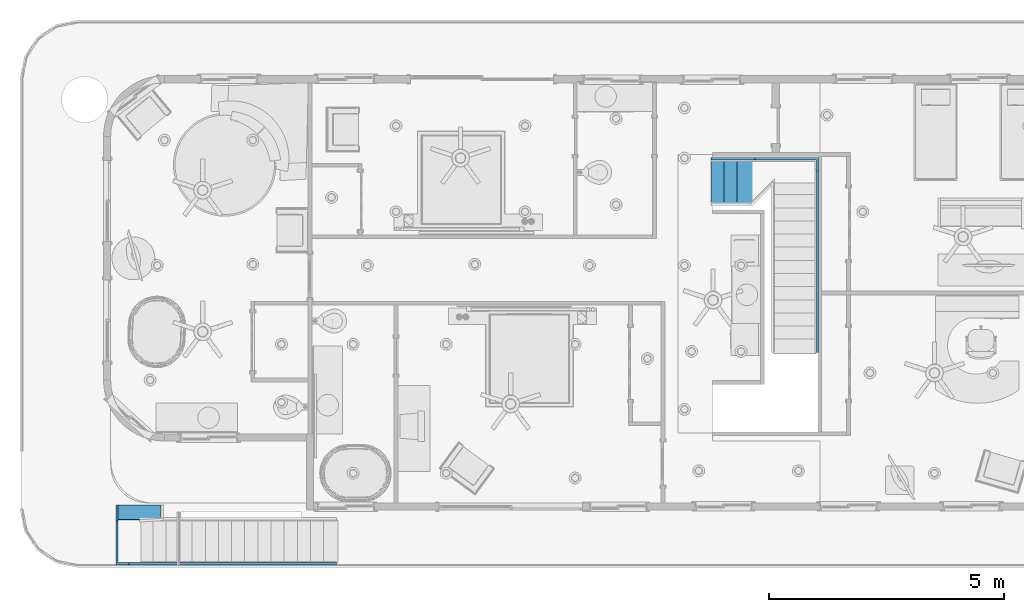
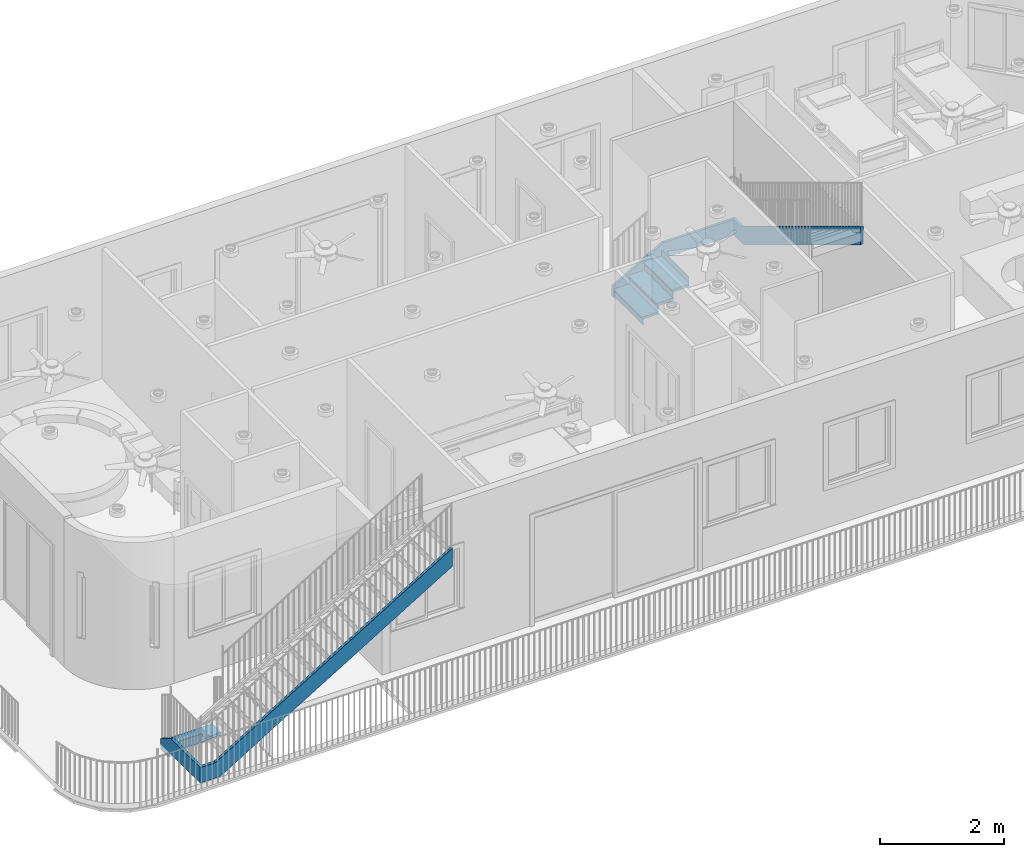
# One storey, part 9 of 28: 2 members, 2 stair flights, 2 elements without a shape of their own.
"""IFC2X3 building model written with IfcOpenShell, lengths in feet."""

from ifc_helpers import new_model, entity, si_unit, converted_unit, derived_unit, direction, frame, origin, place, context, subcontext, project, spatial, faceted_brep, material, element, aggregate, save


model = new_model("IFC2X3")

# Units and contexts
model_context = context("Model", 3, precision=0.0001, world=origin(), true_north=direction((6.12303176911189e-17, 1.0)))
body_context = subcontext(model_context, "Body", "Model", "MODEL_VIEW")
ifc_project = project(units=[converted_unit("LENGTHUNIT", "FOOT", entity("IfcRatioMeasure", 0.3048), si_unit("LENGTHUNIT", "METRE"), dimensions=[1, 0, 0, 0, 0, 0, 0]), converted_unit("AREAUNIT", "SQUARE FOOT", entity("IfcRatioMeasure", 0.09290304), si_unit("AREAUNIT", "SQUARE_METRE"), dimensions=[2, 0, 0, 0, 0, 0, 0]), converted_unit("VOLUMEUNIT", "CUBIC FOOT", entity("IfcRatioMeasure", 0.028316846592), si_unit("VOLUMEUNIT", "CUBIC_METRE"), dimensions=[3, 0, 0, 0, 0, 0, 0]), converted_unit("PLANEANGLEUNIT", "DEGREE", entity("IfcRatioMeasure", 0.0174532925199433), si_unit("PLANEANGLEUNIT", "RADIAN"), dimensions=[0, 0, 0, 0, 0, 0, 0]), si_unit("MASSUNIT", "GRAM", prefix="KILO"), derived_unit("MASSDENSITYUNIT", [(si_unit("MASSUNIT", "GRAM", prefix="KILO"), 1), (si_unit("LENGTHUNIT", "METRE"), -3)]), si_unit("TIMEUNIT", "SECOND"), si_unit("FREQUENCYUNIT", "HERTZ"), si_unit("THERMODYNAMICTEMPERATUREUNIT", "DEGREE_CELSIUS"), derived_unit("THERMALTRANSMITTANCEUNIT", [(si_unit("MASSUNIT", "GRAM", prefix="KILO"), 1), (si_unit("THERMODYNAMICTEMPERATUREUNIT", "KELVIN"), -1), (si_unit("TIMEUNIT", "SECOND"), -3)]), derived_unit("VOLUMETRICFLOWRATEUNIT", [(si_unit("LENGTHUNIT", "METRE"), 3), (si_unit("TIMEUNIT", "SECOND"), -1)]), si_unit("ELECTRICCURRENTUNIT", "AMPERE"), si_unit("ELECTRICVOLTAGEUNIT", "VOLT"), si_unit("POWERUNIT", "WATT"), si_unit("FORCEUNIT", "NEWTON"), si_unit("ILLUMINANCEUNIT", "LUX"), si_unit("LUMINOUSFLUXUNIT", "LUMEN"), si_unit("LUMINOUSINTENSITYUNIT", "CANDELA"), derived_unit("USERDEFINED", [(si_unit("MASSUNIT", "GRAM", prefix="KILO"), -1), (si_unit("LENGTHUNIT", "METRE"), -2), (si_unit("TIMEUNIT", "SECOND"), 3), (si_unit("LUMINOUSFLUXUNIT", "LUMEN"), 1)]), derived_unit("LINEARVELOCITYUNIT", [(si_unit("LENGTHUNIT", "METRE"), 1), (si_unit("TIMEUNIT", "SECOND"), -1)]), si_unit("PRESSUREUNIT", "PASCAL"), derived_unit("USERDEFINED", [(si_unit("LENGTHUNIT", "METRE"), -2), (si_unit("MASSUNIT", "GRAM", prefix="KILO"), 1), (si_unit("TIMEUNIT", "SECOND"), -2)])], contexts=[model_context])

# Site, building, storey
site_placement = place(None, origin())
site = spatial("IfcSite", under=ifc_project, at=site_placement, Name="表面", CompositionType="ELEMENT")
building_placement = place(site_placement, origin())
building = spatial("IfcBuilding", under=site, at=building_placement, CompositionType="ELEMENT")
storey_placement = place(building_placement, frame((0.0, 0.0, 10.0)))
storey = spatial("IfcBuildingStorey", under=building, at=storey_placement, Name="Level 2", CompositionType="ELEMENT", Elevation=9.99999999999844)

# Stair, member
stair_1_placement = place(storey_placement, origin())
stair_1 = element("IfcStair", 1, at=stair_1_placement, inside=storey, Name="楼梯:7\" max riser 11\" tread", ObjectType="楼梯:7\" max riser 11\" tread", ShapeType="NOTDEFINED")
ifc_material = material(Name="Metal - Aluminum")
member_1_placement = place(stair_1_placement, origin())
member_1 = element("IfcMember", 2, at=member_1_placement, material=ifc_material, Name="楼梯:7\" max riser 11\" tread:1", ObjectType="楼梯:7\" max riser 11\" tread", context=body_context, shape_type="Brep", body=[
    faceted_brep([(8.11092024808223, 11.0381172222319, 0.716073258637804), (8.11092024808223, 11.2047838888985, 0.716073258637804), (8.11092024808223, 11.2047838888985, 0.0), (8.11092024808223, 11.0381172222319, 0.0), (11.1732050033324, 11.0381172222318, 2.47222222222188), (11.1732050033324, 11.2047838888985, 2.47222222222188), (11.4395953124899, 11.2047838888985, 1.47222222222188), (8.87240781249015, 11.2047838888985, 0.0), (11.4395953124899, 11.0381172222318, 1.47222222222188), (8.87240781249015, 11.0381172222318, 0.0), (15.4650869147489, 11.0381172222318, 2.47222222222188), (15.6317535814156, 11.2047838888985, 2.47222222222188), (15.6317535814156, 11.2047838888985, 1.47222222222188), (15.4650869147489, 11.0381172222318, 1.47222222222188), (15.4650869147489, 10.2738749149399, 2.47222222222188), (15.6317535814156, 10.2738749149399, 2.47222222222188), (15.6317535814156, 9.99449677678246, 1.47222222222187), (15.4650869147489, 9.99449677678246, 1.47222222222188), (15.4650869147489, -2.37854944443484, 10.1403581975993), (15.4650869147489, -2.37854944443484, 8.97103811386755), (15.6317535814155, -2.37854944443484, 8.97103811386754), (15.6317535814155, -2.37854944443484, 10.1403581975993)], [[[0, 1, 2, 3]], [[1, 0, 4, 5]], [[2, 1, 5, 6, 7]], [[7, 6, 8, 9]], [[0, 3, 9, 8, 4]], [[5, 4, 10, 11]], [[6, 5, 11, 12]], [[8, 6, 12, 13]], [[4, 8, 13, 10]], [[11, 10, 14, 15]], [[12, 11, 15, 16]], [[13, 12, 16, 17]], [[10, 13, 17, 14]], [[18, 19, 20, 21]], [[15, 14, 18, 21]], [[16, 15, 21, 20]], [[17, 16, 20, 19]], [[14, 17, 19, 18]], [[3, 2, 7, 9]]]),
])

stair_2_placement = place(storey_placement, origin())
stair_2 = element("IfcStair", 3, at=stair_2_placement, inside=storey, Name="楼梯:7\" max riser 11\" tread", ObjectType="楼梯:7\" max riser 11\" tread", ShapeType="NOTDEFINED")
member_2_placement = place(stair_2_placement, origin())
member_2 = element("IfcMember", 4, at=member_2_placement, material=ifc_material, Name="楼梯:7\" max riser 11\" tread:2", ObjectType="楼梯:7\" max riser 11\" tread", context=body_context, shape_type="Brep", body=[
    faceted_brep([(-33.4307464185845, -13.0467729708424, 0.695913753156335), (-33.2640797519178, -13.0467729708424, 0.695913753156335), (-33.2640797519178, -13.0467729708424, 0.0), (-33.4307464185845, -13.0467729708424, 0.0), (-33.4307464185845, -14.1443486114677, 1.36111111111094), (-33.2640797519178, -14.1443486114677, 1.36111111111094), (-33.2640797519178, -14.4237267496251, 0.361111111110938), (-33.2640797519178, -13.827893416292, 0.0), (-33.4307464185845, -14.4237267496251, 0.361111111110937), (-33.4307464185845, -13.827893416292, 0.0), (-33.4307464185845, -17.2342729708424, 1.36111111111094), (-33.2640797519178, -17.0676063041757, 1.36111111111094), (-33.2640797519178, -17.0676063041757, 0.36111111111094), (-33.4307464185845, -17.2342729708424, 0.361111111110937), (-32.4998374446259, -17.2342729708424, 1.36111111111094), (-32.4998374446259, -17.0676063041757, 1.36111111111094), (-32.2204593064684, -17.0676063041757, 0.36111111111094), (-32.2204593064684, -17.2342729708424, 0.361111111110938), (-18.0140797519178, -17.2342729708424, 10.1403581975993), (-18.0140797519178, -17.2342729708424, 8.97103811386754), (-18.0140797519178, -17.0676063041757, 8.97103811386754), (-18.0140797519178, -17.0676063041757, 10.1403581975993)], [[[0, 1, 2, 3]], [[1, 0, 4, 5]], [[2, 1, 5, 6, 7]], [[7, 6, 8, 9]], [[0, 3, 9, 8, 4]], [[5, 4, 10, 11]], [[6, 5, 11, 12]], [[8, 6, 12, 13]], [[4, 8, 13, 10]], [[11, 10, 14, 15]], [[12, 11, 15, 16]], [[13, 12, 16, 17]], [[10, 13, 17, 14]], [[18, 19, 20, 21]], [[15, 14, 18, 21]], [[16, 15, 21, 20]], [[17, 16, 20, 19]], [[14, 17, 19, 18]], [[3, 2, 7, 9]]]),
])

# Stair flight
stair_flight_1_placement = place(stair_1_placement, origin())
stair_flight_1 = element("IfcStairFlight", 5, at=stair_flight_1_placement, material=ifc_material, Name="楼梯:7\" max riser 11\" tread:1", ObjectType="楼梯:7\" max riser 11\" tread", NumberOfRiser=4, NumberOfTreads=3, RiserHeight=0.555555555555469, TreadLength=0.951388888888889, context=body_context, shape_type="Brep", body=[
    faceted_brep([(8.11092024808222, 8.03811722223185, 0.493055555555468), (8.11092024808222, 8.03811722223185, 0.555555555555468), (8.11092024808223, 11.0381172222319, 0.555555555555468), (8.11092024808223, 11.0381172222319, 0.493055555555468), (8.19425358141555, 8.03811722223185, 0.409722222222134), (8.19425358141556, 11.0381172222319, 0.409722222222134), (9.11092024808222, 8.03811722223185, 0.555555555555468), (9.11092024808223, 11.0381172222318, 0.555555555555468), (8.19425358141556, 11.0381172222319, 0.388888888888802), (9.11092024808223, 11.0381172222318, 0.388888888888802), (9.11092024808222, 8.03811722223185, 0.388888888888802), (8.19425358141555, 8.03811722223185, 0.388888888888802)], [[[0, 1, 2, 3]], [[4, 0, 3, 5]], [[2, 1, 6, 7]], [[8, 9, 10, 11]], [[2, 7, 9, 8, 5, 3]], [[8, 11, 4, 5]], [[6, 1, 0, 4, 11, 10]], [[7, 6, 10, 9]]]),
    faceted_brep([(8.19425358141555, 8.03811722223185, 0.388888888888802), (8.19425358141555, 8.03811722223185, 0.0), (8.21508691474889, 8.03811722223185, 0.0), (8.21508691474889, 8.03811722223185, 0.388888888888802), (8.19425358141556, 11.0381172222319, 0.388888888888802), (8.2150869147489, 11.0381172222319, 0.388888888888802), (8.2150869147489, 11.0381172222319, 0.0), (8.19425358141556, 11.0381172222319, 0.0)], [[[0, 1, 2, 3]], [[4, 5, 6, 7]], [[1, 0, 4, 7]], [[2, 1, 7, 6]], [[3, 2, 6, 5]], [[0, 3, 5, 4]]]),
    faceted_brep([(9.11092024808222, 8.03811722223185, 0.944444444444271), (9.11092024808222, 8.03811722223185, 0.388888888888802), (9.13175358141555, 8.03811722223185, 0.388888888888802), (9.13175358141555, 8.03811722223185, 0.944444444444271), (9.11092024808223, 11.0381172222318, 0.944444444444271), (9.13175358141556, 11.0381172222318, 0.944444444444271), (9.13175358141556, 11.0381172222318, 0.388888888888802), (9.11092024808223, 11.0381172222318, 0.388888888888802)], [[[0, 1, 2, 3]], [[4, 5, 6, 7]], [[1, 0, 4, 7]], [[2, 1, 7, 6]], [[3, 2, 6, 5]], [[0, 3, 5, 4]]]),
    faceted_brep([(9.0275869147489, 11.0381172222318, 1.11111111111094), (9.02758691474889, 8.03811722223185, 1.11111111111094), (10.0275869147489, 8.03811722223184, 1.11111111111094), (10.0275869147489, 11.0381172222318, 1.11111111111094), (9.11092024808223, 11.0381172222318, 0.944444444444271), (10.0275869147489, 11.0381172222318, 0.944444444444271), (10.0275869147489, 8.03811722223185, 0.944444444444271), (9.11092024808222, 8.03811722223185, 0.944444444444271), (9.11092024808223, 11.0381172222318, 0.965277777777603), (9.0275869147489, 11.0381172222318, 1.04861111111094), (9.11092024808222, 8.03811722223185, 0.965277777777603), (9.02758691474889, 8.03811722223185, 1.04861111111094)], [[[0, 1, 2, 3]], [[4, 5, 6, 7]], [[0, 3, 5, 4, 8, 9]], [[4, 7, 10, 8]], [[2, 1, 11, 10, 7, 6]], [[3, 2, 6, 5]], [[11, 1, 0, 9]], [[10, 11, 9, 8]]]),
    faceted_brep([(10.0275869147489, 8.03811722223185, 1.49999999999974), (10.0275869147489, 8.03811722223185, 0.944444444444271), (10.0484202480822, 8.03811722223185, 0.944444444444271), (10.0484202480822, 8.03811722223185, 1.49999999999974), (10.0275869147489, 11.0381172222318, 1.49999999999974), (10.0484202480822, 11.0381172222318, 1.49999999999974), (10.0484202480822, 11.0381172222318, 0.944444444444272), (10.0275869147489, 11.0381172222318, 0.944444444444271)], [[[0, 1, 2, 3]], [[4, 5, 6, 7]], [[1, 0, 4, 7]], [[2, 1, 7, 6]], [[3, 2, 6, 5]], [[0, 3, 5, 4]]]),
    faceted_brep([(11.0484202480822, 11.0381172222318, 1.66666666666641), (10.9650869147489, 11.0381172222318, 1.66666666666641), (9.94425358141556, 11.0381172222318, 1.66666666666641), (9.94425358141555, 8.03811722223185, 1.66666666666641), (10.9650869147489, 8.03811722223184, 1.66666666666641), (11.0484202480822, 8.12145055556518, 1.66666666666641), (10.9650869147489, 11.0381172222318, 1.49999999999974), (11.0484202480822, 11.0381172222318, 1.49999999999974), (11.0484202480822, 8.12145055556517, 1.49999999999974), (10.9650869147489, 8.03811722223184, 1.49999999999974), (10.0275869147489, 8.03811722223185, 1.49999999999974), (10.0275869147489, 11.0381172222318, 1.49999999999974), (10.0275869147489, 11.0381172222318, 1.52083333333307), (9.94425358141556, 11.0381172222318, 1.60416666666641), (10.0275869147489, 8.03811722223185, 1.52083333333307), (9.94425358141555, 8.03811722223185, 1.60416666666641)], [[[0, 1, 2, 3, 4, 5]], [[6, 7, 8, 9, 10, 11]], [[1, 0, 7, 6]], [[2, 1, 6, 11, 12, 13]], [[11, 10, 14, 12]], [[4, 3, 15, 14, 10, 9]], [[5, 4, 9, 8]], [[0, 5, 8, 7]], [[15, 3, 2, 13]], [[14, 15, 13, 12]]]),
    faceted_brep([(11.0484202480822, 8.12145055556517, 2.05555555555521), (11.0484202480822, 8.12145055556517, 1.49999999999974), (11.0692535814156, 8.14228388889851, 1.49999999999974), (11.0692535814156, 8.14228388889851, 2.05555555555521), (11.0484202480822, 11.0381172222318, 2.05555555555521), (11.0692535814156, 11.0381172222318, 2.05555555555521), (11.0692535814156, 11.0381172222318, 1.49999999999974), (11.0484202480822, 11.0381172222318, 1.49999999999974)], [[[0, 1, 2, 3]], [[4, 5, 6, 7]], [[1, 0, 4, 7]], [[2, 1, 7, 6]], [[3, 2, 6, 5]], [[0, 3, 5, 4]]]),
])

aggregate(stair_1, [stair_flight_1, member_1])

stair_flight_2_placement = place(stair_2_placement, origin())
stair_flight_2 = element("IfcStairFlight", 6, at=stair_flight_2_placement, material=ifc_material, Name="楼梯:7\" max riser 11\" tread:1", ObjectType="楼梯:7\" max riser 11\" tread", NumberOfRiser=2, NumberOfTreads=1, RiserHeight=0.555555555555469, TreadLength=0.916666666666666, context=body_context, shape_type="Brep", body=[
    faceted_brep([(-33.2640797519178, -13.0467729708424, 0.493055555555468), (-33.2640797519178, -13.0467729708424, 0.555555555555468), (-30.2640797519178, -13.0467729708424, 0.555555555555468), (-30.2640797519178, -13.0467729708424, 0.493055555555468), (-33.2640797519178, -13.1301063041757, 0.409722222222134), (-30.2640797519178, -13.1301063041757, 0.409722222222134), (-31.4640797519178, -14.0467729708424, 0.555555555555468), (-30.2640797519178, -13.9634396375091, 0.555555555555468), (-33.2640797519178, -13.9634396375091, 0.555555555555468), (-33.2640797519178, -14.0467729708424, 0.555555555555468), (-30.2640797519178, -13.9634396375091, 0.388888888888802), (-31.4640797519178, -14.0467729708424, 0.388888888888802), (-33.2640797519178, -14.0467729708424, 0.388888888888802), (-33.2640797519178, -13.9634396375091, 0.388888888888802), (-33.2640797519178, -13.1301063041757, 0.388888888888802), (-30.2640797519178, -13.1301063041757, 0.388888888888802)], [[[0, 1, 2, 3]], [[4, 0, 3, 5]], [[6, 7, 2, 1, 8, 9]], [[10, 11, 12, 13, 14, 15]], [[7, 6, 11, 10]], [[2, 7, 10, 15, 5, 3]], [[15, 14, 4, 5]], [[8, 1, 0, 4, 14, 13]], [[9, 8, 13, 12]], [[6, 9, 12, 11]]]),
    faceted_brep([(-33.2640797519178, -13.1301063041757, 0.388888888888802), (-33.2640797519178, -13.1301063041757, 0.0), (-33.2640797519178, -13.1509396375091, 0.0), (-33.2640797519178, -13.1509396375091, 0.388888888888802), (-30.2640797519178, -13.1301063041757, 0.388888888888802), (-30.2640797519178, -13.1509396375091, 0.388888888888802), (-30.2640797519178, -13.1509396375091, 0.0), (-30.2640797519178, -13.1301063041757, 0.0)], [[[0, 1, 2, 3]], [[4, 5, 6, 7]], [[1, 0, 4, 7]], [[2, 1, 7, 6]], [[3, 2, 6, 5]], [[0, 3, 5, 4]]]),
    faceted_brep([(-33.2640797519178, -14.0467729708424, 0.944444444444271), (-33.2640797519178, -14.0467729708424, 0.388888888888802), (-33.2640797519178, -14.0676063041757, 0.388888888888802), (-33.2640797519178, -14.0676063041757, 0.944444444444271), (-31.4640797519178, -14.0467729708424, 0.944444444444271), (-31.4640797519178, -14.0676063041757, 0.944444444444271), (-31.4640797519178, -14.0676063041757, 0.388888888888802), (-31.4640797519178, -14.0467729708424, 0.388888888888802)], [[[0, 1, 2, 3]], [[4, 5, 6, 7]], [[1, 0, 4, 7]], [[2, 1, 7, 6]], [[3, 2, 6, 5]], [[0, 3, 5, 4]]]),
])

aggregate(stair_2, [stair_flight_2, member_2])

save(model, "model.ifc")
